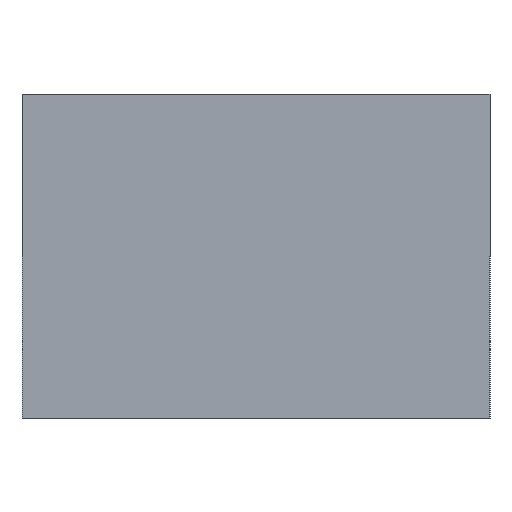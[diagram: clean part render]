
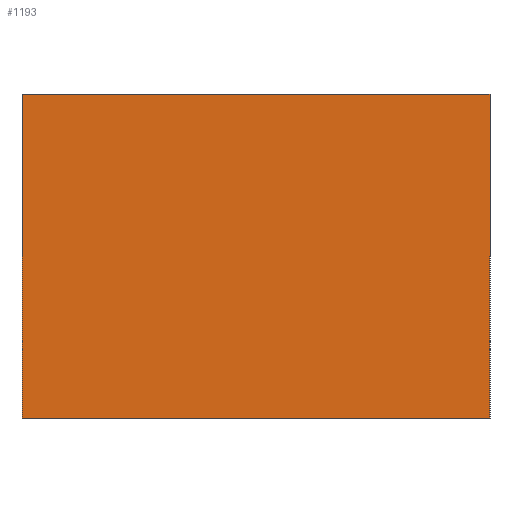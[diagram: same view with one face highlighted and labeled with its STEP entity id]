
A CAD part, front view. The second image highlights one B-rep face of the part: STEP entity #1193.
In plain terms, the highlighted planar face has unit normal (0, -1, 0).
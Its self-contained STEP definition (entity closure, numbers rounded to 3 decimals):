
#10 = DIRECTION ( 'NONE',  ( 1., 0., 0. ) ) ;
#144 = EDGE_CURVE ( 'NONE', #1532, #1661, #1239, .T. ) ;
#231 = VERTEX_POINT ( 'NONE', #2104 ) ;
#297 = VECTOR ( 'NONE', #1870, 1000. ) ;
#312 = VECTOR ( 'NONE', #1520, 1000. ) ;
#356 = EDGE_CURVE ( 'NONE', #1661, #231, #451, .T. ) ;
#369 = VERTEX_POINT ( 'NONE', #1856 ) ;
#393 = LINE ( 'NONE', #1536, #312 ) ;
#451 = LINE ( 'NONE', #1876, #297 ) ;
#580 = CARTESIAN_POINT ( 'NONE',  ( -32.5, 0., 22.5 ) ) ;
#581 = ORIENTED_EDGE ( 'NONE', *, *, #1412, .F. ) ;
#746 = EDGE_CURVE ( 'NONE', #231, #369, #393, .T. ) ;
#925 = DIRECTION ( 'NONE',  ( 0., 0., 1. ) ) ;
#949 = ORIENTED_EDGE ( 'NONE', *, *, #356, .F. ) ;
#964 = CARTESIAN_POINT ( 'NONE',  ( -32.5, 0., -22.5 ) ) ;
#1168 = ORIENTED_EDGE ( 'NONE', *, *, #144, .F. ) ;
#1193 = ADVANCED_FACE ( 'NONE', ( #1288 ), #1222, .F. ) ;
#1205 = ORIENTED_EDGE ( 'NONE', *, *, #746, .F. ) ;
#1212 = DIRECTION ( 'NONE',  ( 0., 0., 1. ) ) ;
#1221 = DIRECTION ( 'NONE',  ( 0., 1., 0. ) ) ;
#1222 = PLANE ( 'NONE',  #2066 ) ;
#1239 = LINE ( 'NONE', #2298, #1438 ) ;
#1242 = CARTESIAN_POINT ( 'NONE',  ( 0., 0., 0. ) ) ;
#1288 = FACE_OUTER_BOUND ( 'NONE', #2233, .T. ) ;
#1412 = EDGE_CURVE ( 'NONE', #369, #1532, #2069, .T. ) ;
#1438 = VECTOR ( 'NONE', #10, 1000. ) ;
#1520 = DIRECTION ( 'NONE',  ( -1., 0., 0. ) ) ;
#1532 = VERTEX_POINT ( 'NONE', #580 ) ;
#1536 = CARTESIAN_POINT ( 'NONE',  ( -32.5, 0., -22.5 ) ) ;
#1595 = CARTESIAN_POINT ( 'NONE',  ( 32.5, 0., 22.5 ) ) ;
#1661 = VERTEX_POINT ( 'NONE', #1595 ) ;
#1856 = CARTESIAN_POINT ( 'NONE',  ( -32.5, 0., -22.5 ) ) ;
#1868 = VECTOR ( 'NONE', #925, 1000. ) ;
#1870 = DIRECTION ( 'NONE',  ( 0., 0., -1. ) ) ;
#1876 = CARTESIAN_POINT ( 'NONE',  ( 32.5, 0., -22.5 ) ) ;
#2066 = AXIS2_PLACEMENT_3D ( 'NONE', #1242, #1221, #1212 ) ;
#2069 = LINE ( 'NONE', #964, #1868 ) ;
#2104 = CARTESIAN_POINT ( 'NONE',  ( 32.5, 0., -22.5 ) ) ;
#2233 = EDGE_LOOP ( 'NONE', ( #949, #1168, #581, #1205 ) ) ;
#2298 = CARTESIAN_POINT ( 'NONE',  ( -32.5, 0., 22.5 ) ) ;
